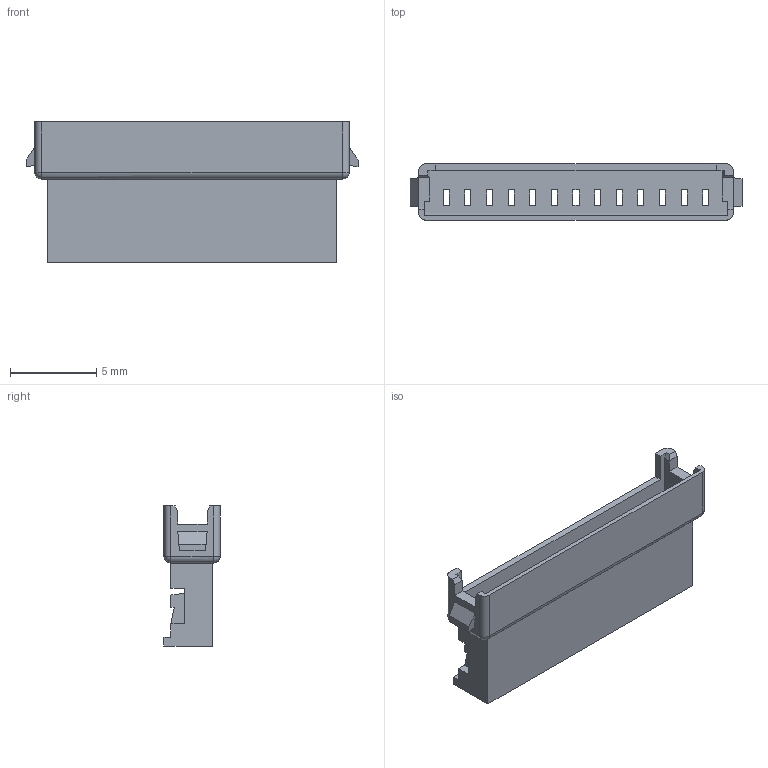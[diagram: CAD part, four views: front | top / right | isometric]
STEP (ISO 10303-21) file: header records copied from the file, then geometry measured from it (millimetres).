
FILE_DESCRIPTION(('CATIA V5 STEP Exchange'),'2;1');
FILE_NAME('F:\小黄\条形连接器\1.25系列\10--1.25 单排 带钩\NEYJ\HC-1.25-13EYJ-05（1.25 单排 母孔座 带钩-HCTL）.stp','2025-11-06T06:24:48+00:00',('none'),('none'),'CATIA Version 5 Release 20 GA (IN-10)','CATIA V5 STEP AP203','none');
FILE_SCHEMA(('CONFIG_CONTROL_DESIGN'));
Length unit declared in the file: millimetre
Products named in the file (1): Part2
Bounding box: 19.2 x 3.25 x 8.1 mm (x, y, z)
Volume: 150 mm3; surface area: 844.4 mm2
Topology: 1 solids, 1 shells, 430 faces, 1225 edges, 786 vertices
Faces by surface type: plane 418, cylinder 8, sphere 4
Entity records: 12702 total; most frequent: ORIENTED_EDGE 2450, CARTESIAN_POINT 2285, DIRECTION 1655, EDGE_CURVE 1225, VECTOR 1209, LINE 1209, VERTEX_POINT 786, EDGE_LOOP 471
